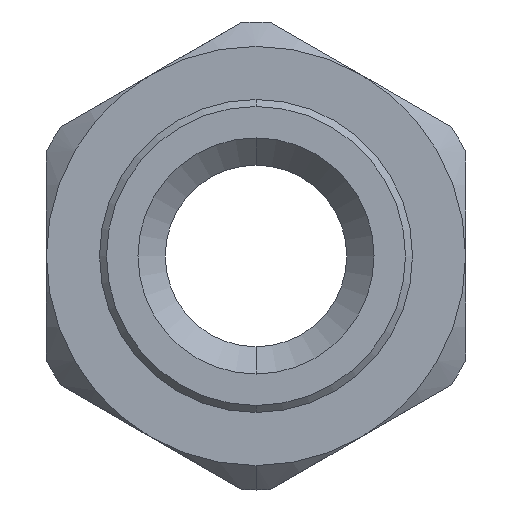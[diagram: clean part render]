
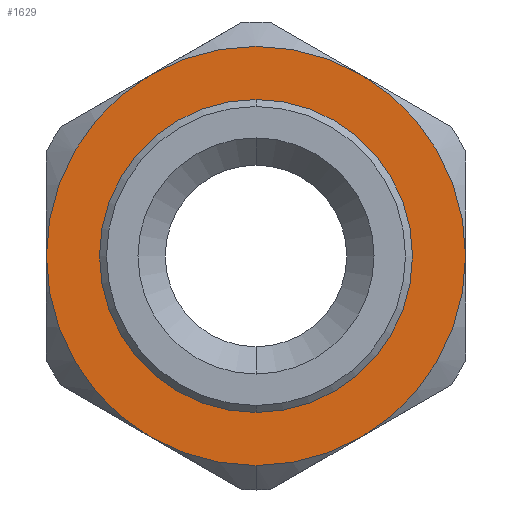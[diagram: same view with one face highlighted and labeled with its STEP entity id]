
A CAD part, front view. The second image highlights one B-rep face of the part: STEP entity #1629.
In plain terms, the highlighted planar face has unit normal (0, -1, 0).
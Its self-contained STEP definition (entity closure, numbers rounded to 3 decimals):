
#16 = AXIS2_PLACEMENT_3D ( 'NONE', #651, #648, #647 ) ;
#23 = AXIS2_PLACEMENT_3D ( 'NONE', #619, #620, #615 ) ;
#84 = AXIS2_PLACEMENT_3D ( 'NONE', #2375, #376, #377 ) ;
#105 = AXIS2_PLACEMENT_3D ( 'NONE', #588, #590, #587 ) ;
#133 = AXIS2_PLACEMENT_3D ( 'NONE', #617, #621, #622 ) ;
#138 = AXIS2_PLACEMENT_3D ( 'NONE', #628, #528, #567 ) ;
#253 = AXIS2_PLACEMENT_3D ( 'NONE', #888, #993, #992 ) ;
#257 = AXIS2_PLACEMENT_3D ( 'NONE', #991, #990, #989 ) ;
#269 = AXIS2_PLACEMENT_3D ( 'NONE', #988, #987, #986 ) ;
#335 = FACE_BOUND ( 'NONE', #2449, .T. ) ;
#348 = FACE_OUTER_BOUND ( 'NONE', #2446, .T. ) ;
#351 = AXIS2_PLACEMENT_3D ( 'NONE', #1345, #1344, #1343 ) ;
#376 = DIRECTION ( 'NONE',  ( 0., -1., 0. ) ) ;
#377 = DIRECTION ( 'NONE',  ( 0., 0., -1. ) ) ;
#528 = DIRECTION ( 'NONE',  ( 0., -1., 0. ) ) ;
#567 = DIRECTION ( 'NONE',  ( 0., 0., -1. ) ) ;
#587 = DIRECTION ( 'NONE',  ( 0., 0., -1. ) ) ;
#588 = CARTESIAN_POINT ( 'NONE',  ( 0., 1., 0. ) ) ;
#590 = DIRECTION ( 'NONE',  ( 0., -1., 0. ) ) ;
#615 = DIRECTION ( 'NONE',  ( 0., 0., -1. ) ) ;
#617 = CARTESIAN_POINT ( 'NONE',  ( 0., 1., 0. ) ) ;
#619 = CARTESIAN_POINT ( 'NONE',  ( 0., 1., 0. ) ) ;
#620 = DIRECTION ( 'NONE',  ( 0., -1., 0. ) ) ;
#621 = DIRECTION ( 'NONE',  ( 0., -1., 0. ) ) ;
#622 = DIRECTION ( 'NONE',  ( 0., 0., -1. ) ) ;
#628 = CARTESIAN_POINT ( 'NONE',  ( 0., 1., 0. ) ) ;
#647 = DIRECTION ( 'NONE',  ( 0., 0., -1. ) ) ;
#648 = DIRECTION ( 'NONE',  ( 0., -1., 0. ) ) ;
#651 = CARTESIAN_POINT ( 'NONE',  ( 0., 1., 0. ) ) ;
#888 = CARTESIAN_POINT ( 'NONE',  ( 0., 1., 0. ) ) ;
#986 = DIRECTION ( 'NONE',  ( 0., 0., -1. ) ) ;
#987 = DIRECTION ( 'NONE',  ( 0., -1., 0. ) ) ;
#988 = CARTESIAN_POINT ( 'NONE',  ( 0., 1., 0. ) ) ;
#989 = DIRECTION ( 'NONE',  ( 0., 0., -1. ) ) ;
#990 = DIRECTION ( 'NONE',  ( 0., -1., 0. ) ) ;
#991 = CARTESIAN_POINT ( 'NONE',  ( 0., 1., 0. ) ) ;
#992 = DIRECTION ( 'NONE',  ( 0., 0., -1. ) ) ;
#993 = DIRECTION ( 'NONE',  ( 0., -1., 0. ) ) ;
#999 = CARTESIAN_POINT ( 'NONE',  ( 7.5, 1., -12.99 ) ) ;
#1007 = CARTESIAN_POINT ( 'NONE',  ( 0., 1., -11.2 ) ) ;
#1013 = CARTESIAN_POINT ( 'NONE',  ( 15., 1., 0. ) ) ;
#1166 = CARTESIAN_POINT ( 'NONE',  ( 0., 1., -15. ) ) ;
#1252 = CARTESIAN_POINT ( 'NONE',  ( 7.5, 1., 12.99 ) ) ;
#1273 = CARTESIAN_POINT ( 'NONE',  ( 0., 1., 11.2 ) ) ;
#1276 = CARTESIAN_POINT ( 'NONE',  ( -7.5, 1., 12.99 ) ) ;
#1304 = CARTESIAN_POINT ( 'NONE',  ( -7.5, 1., -12.99 ) ) ;
#1315 = CARTESIAN_POINT ( 'NONE',  ( -15., 1., 0. ) ) ;
#1343 = DIRECTION ( 'NONE',  ( 0., 0., 1. ) ) ;
#1344 = DIRECTION ( 'NONE',  ( 0., 1., 0. ) ) ;
#1345 = CARTESIAN_POINT ( 'NONE',  ( -16.75, 1., 0. ) ) ;
#1346 = PLANE ( 'NONE',  #351 ) ;
#1392 = EDGE_CURVE ( 'NONE', #2305, #2333, #1649, .T. ) ;
#1451 = EDGE_CURVE ( 'NONE', #2325, #2269, #1684, .T. ) ;
#1470 = EDGE_CURVE ( 'NONE', #2240, #2251, #1687, .T. ) ;
#1471 = EDGE_CURVE ( 'NONE', #2266, #2240, #1615, .T. ) ;
#1472 = EDGE_CURVE ( 'NONE', #2251, #2305, #1691, .T. ) ;
#1479 = EDGE_CURVE ( 'NONE', #2333, #2319, #1692, .T. ) ;
#1551 = EDGE_CURVE ( 'NONE', #2293, #2266, #1586, .T. ) ;
#1552 = EDGE_CURVE ( 'NONE', #2269, #2325, #1712, .T. ) ;
#1553 = EDGE_CURVE ( 'NONE', #2319, #2293, #1732, .T. ) ;
#1586 = CIRCLE ( 'NONE', #253, 15. ) ;
#1615 = CIRCLE ( 'NONE', #133, 15. ) ;
#1629 = ADVANCED_FACE ( 'NONE', ( #335, #348 ), #1346, .F. ) ;
#1649 = CIRCLE ( 'NONE', #84, 15. ) ;
#1684 = CIRCLE ( 'NONE', #105, 11.2 ) ;
#1687 = CIRCLE ( 'NONE', #16, 15. ) ;
#1691 = CIRCLE ( 'NONE', #23, 15. ) ;
#1692 = CIRCLE ( 'NONE', #138, 15. ) ;
#1712 = CIRCLE ( 'NONE', #257, 11.2 ) ;
#1732 = CIRCLE ( 'NONE', #269, 15. ) ;
#2018 = ORIENTED_EDGE ( 'NONE', *, *, #1470, .T. ) ;
#2019 = ORIENTED_EDGE ( 'NONE', *, *, #1472, .T. ) ;
#2020 = ORIENTED_EDGE ( 'NONE', *, *, #1392, .T. ) ;
#2240 = VERTEX_POINT ( 'NONE', #1315 ) ;
#2251 = VERTEX_POINT ( 'NONE', #1304 ) ;
#2266 = VERTEX_POINT ( 'NONE', #1276 ) ;
#2269 = VERTEX_POINT ( 'NONE', #1273 ) ;
#2293 = VERTEX_POINT ( 'NONE', #1252 ) ;
#2305 = VERTEX_POINT ( 'NONE', #1166 ) ;
#2319 = VERTEX_POINT ( 'NONE', #1013 ) ;
#2325 = VERTEX_POINT ( 'NONE', #1007 ) ;
#2333 = VERTEX_POINT ( 'NONE', #999 ) ;
#2352 = ORIENTED_EDGE ( 'NONE', *, *, #1451, .F. ) ;
#2353 = ORIENTED_EDGE ( 'NONE', *, *, #1552, .F. ) ;
#2354 = ORIENTED_EDGE ( 'NONE', *, *, #1553, .T. ) ;
#2358 = ORIENTED_EDGE ( 'NONE', *, *, #1471, .T. ) ;
#2359 = ORIENTED_EDGE ( 'NONE', *, *, #1551, .T. ) ;
#2360 = ORIENTED_EDGE ( 'NONE', *, *, #1479, .T. ) ;
#2375 = CARTESIAN_POINT ( 'NONE',  ( 0., 1., 0. ) ) ;
#2446 = EDGE_LOOP ( 'NONE', ( #2354, #2359, #2358, #2018, #2019, #2020, #2360 ) ) ;
#2449 = EDGE_LOOP ( 'NONE', ( #2352, #2353 ) ) ;
